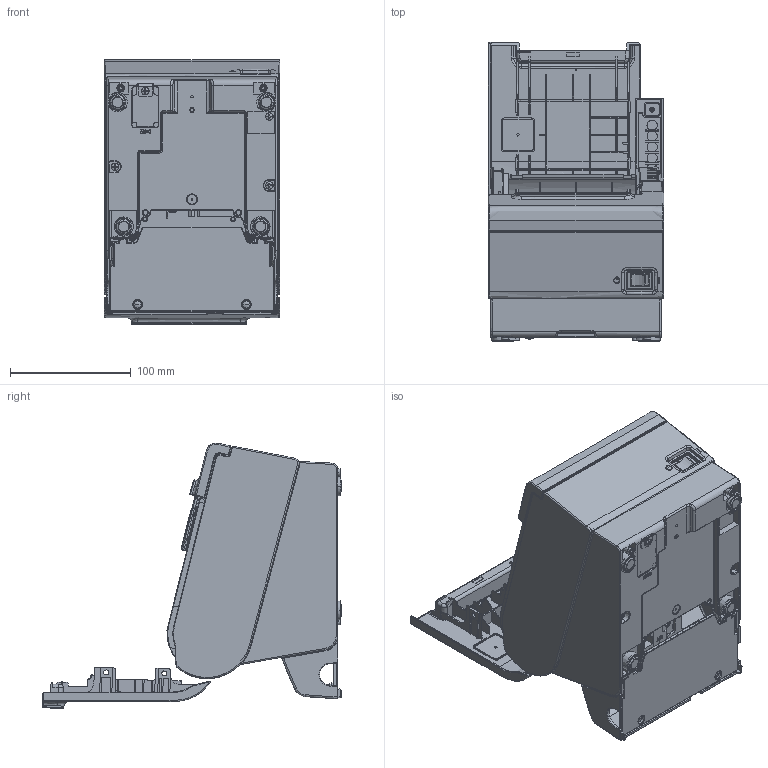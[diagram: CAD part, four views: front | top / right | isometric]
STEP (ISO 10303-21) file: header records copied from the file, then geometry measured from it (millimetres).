
FILE_DESCRIPTION((''),'2;1');
FILE_NAME('TM-T88VII_OPEN','2025-01-17T15:03:33',('5012938'),(''),'CREO PARAMETRIC BY PTC INC, 2022281','CREO PARAMETRIC BY PTC INC, 2022281','');
FILE_SCHEMA(('AUTOMOTIVE_DESIGN { 1 0 10303 214 1 1 1 1 }'));
Products named in the file (1): TM-T88VII_OPEN
Bounding box: 145 x 247.55 x 219.66 mm (x, y, z)
Surface area: 489480.3 mm2 (no closed solid volume)
Topology: 0 solids, 103 shells, 6645 faces, 20672 edges, 13838 vertices
Faces by surface type: plane 3362, cylinder 2322, bspline 458, torus 211, cone 190, sphere 79, extrusion 23
Entity records: 298013 total; most frequent: CARTESIAN_POINT 119089, ORIENTED_EDGE 37529, DIRECTION 35208, EDGE_CURVE 20653, VERTEX_POINT 13838, VECTOR 12646, LINE 12623, AXIS2_PLACEMENT_3D 11281
